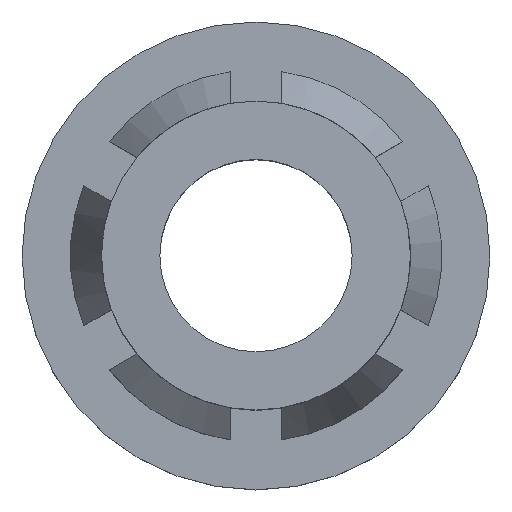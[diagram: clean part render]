
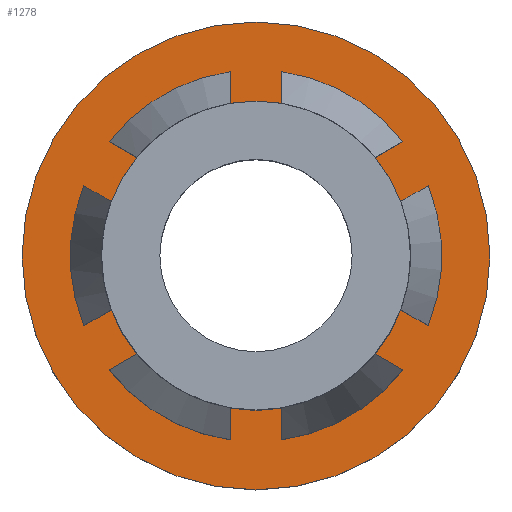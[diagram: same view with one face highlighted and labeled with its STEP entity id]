
A CAD part, top view. The second image highlights one B-rep face of the part: STEP entity #1278.
In plain terms, the highlighted planar face has unit normal (0, 0, 1).
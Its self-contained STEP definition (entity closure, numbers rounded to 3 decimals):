
#53 = AXIS2_PLACEMENT_3D ( 'NONE', #805, #1199, #914 ) ;
#64 = AXIS2_PLACEMENT_3D ( 'NONE', #636, #678, #689 ) ;
#96 = ORIENTED_EDGE ( 'NONE', *, *, #369, .F. ) ;
#260 = AXIS2_PLACEMENT_3D ( 'NONE', #1074, #1224, #1345 ) ;
#369 = EDGE_CURVE ( 'NONE', #748, #748, #1251, .T. ) ;
#408 = EDGE_LOOP ( 'NONE', ( #96 ) ) ;
#617 = VERTEX_POINT ( 'NONE', #1168 ) ;
#621 = ORIENTED_EDGE ( 'NONE', *, *, #1141, .T. ) ;
#636 = CARTESIAN_POINT ( 'NONE',  ( 8.938, 0., -17.02 ) ) ;
#665 = CIRCLE ( 'NONE', #53, 1.816 ) ;
#678 = DIRECTION ( 'NONE',  ( 0., 0., -1. ) ) ;
#689 = DIRECTION ( 'NONE',  ( -1., 0., 0. ) ) ;
#748 = VERTEX_POINT ( 'NONE', #1080 ) ;
#805 = CARTESIAN_POINT ( 'NONE',  ( 8.938, 0., -17.02 ) ) ;
#914 = DIRECTION ( 'NONE',  ( -1., 0., 0. ) ) ;
#939 = PLANE ( 'NONE',  #260 ) ;
#1003 = FACE_OUTER_BOUND ( 'NONE', #408, .T. ) ;
#1074 = CARTESIAN_POINT ( 'NONE',  ( 12.113, 0., -17.02 ) ) ;
#1080 = CARTESIAN_POINT ( 'NONE',  ( 6.188, 0., -17.02 ) ) ;
#1141 = EDGE_CURVE ( 'NONE', #617, #617, #665, .T. ) ;
#1147 = EDGE_LOOP ( 'NONE', ( #621 ) ) ;
#1168 = CARTESIAN_POINT ( 'NONE',  ( 7.122, 0., -17.02 ) ) ;
#1199 = DIRECTION ( 'NONE',  ( 0., 0., -1. ) ) ;
#1224 = DIRECTION ( 'NONE',  ( 0., 0., -1. ) ) ;
#1251 = CIRCLE ( 'NONE', #64, 2.75 ) ;
#1278 = ADVANCED_FACE ( 'NONE', ( #1440, #1003 ), #939, .F. ) ;
#1345 = DIRECTION ( 'NONE',  ( -1., 0., 0. ) ) ;
#1440 = FACE_BOUND ( 'NONE', #1147, .T. ) ;
